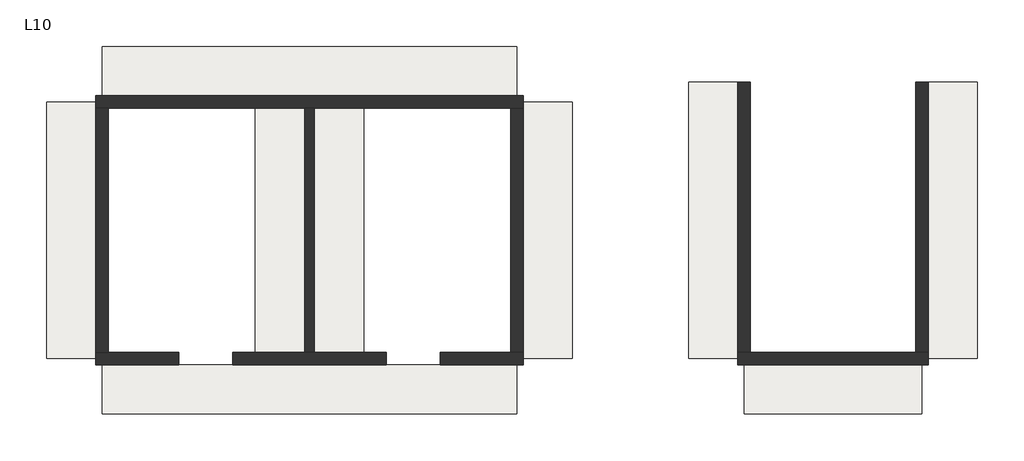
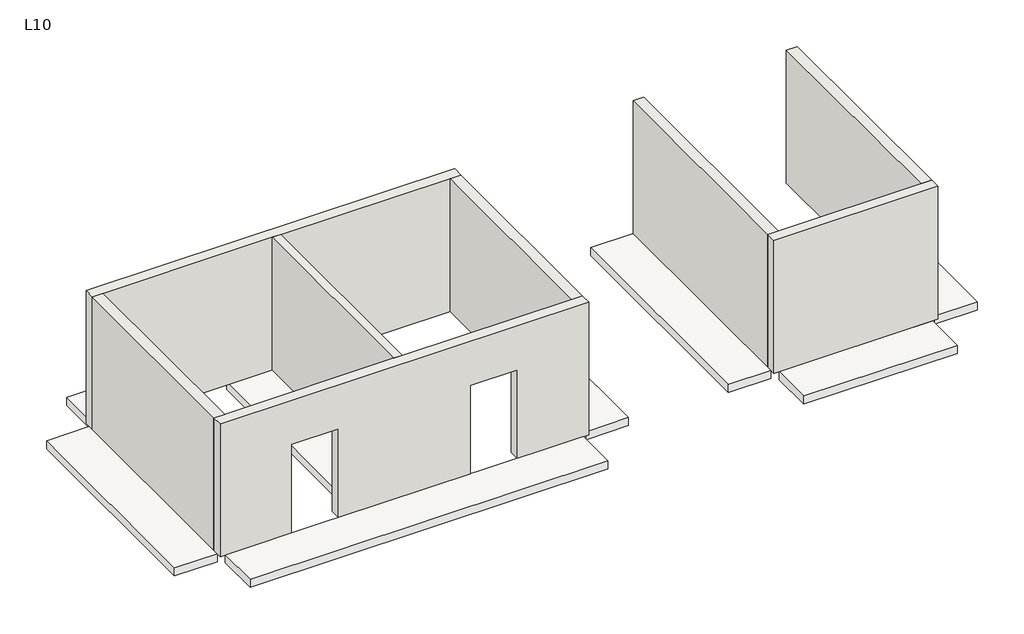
# One storey: 9 slabs, 8 walls.
"""IFC4 building model written with IfcOpenShell, lengths in millimetres."""

from ifc_helpers import new_model, si_unit, frame, origin, place, context, project, spatial, polyline, outline, extrude, faceted_brep, element, save

model = new_model("IFC4")

# Units and contexts
model_context = context("Model", 3, world=origin())
ifc_project = project(units=[si_unit("LENGTHUNIT", "METRE", prefix="MILLI")], contexts=[model_context])

# Site, building, storey
site = spatial("IfcSite", under=ifc_project)
building = spatial("IfcBuilding", under=site)
storey = spatial("IfcBuildingStorey", under=building, Name="L10", Elevation=30900.0)

# Slabs
placement = place(None, origin())
element("IfcSlab", 1, ObjectType="BS-Sàn 200", at=placement, inside=storey, context=model_context, shape_type="SweptSolid", body=[
    extrude(outline(polyline([(0.0, 6325.0), (8400.0, 6325.0), (8400.0, 5325.0), (0.0, 5325.0), (0.0, 6325.0)])), frame((0.0, 0.0, 30700.0), z_axis=(0.0, 0.0, 1.0), x_axis=(1.0, 0.0, 0.0)), (0.0, 0.0, 1.0), 200.0),
])
element("IfcSlab", 2, ObjectType="BS-Sàn 200", at=placement, inside=storey, context=model_context, shape_type="SweptSolid", body=[
    extrude(outline(polyline([(16725.0, 5600.0), (17725.0, 5600.0), (17725.0, 0.0), (16725.0, 0.0), (16725.0, 5600.0)])), frame((0.0, 0.0, 30700.0), z_axis=(0.0, 0.0, 1.0), x_axis=(1.0, 0.0, 0.0)), (0.0, 0.0, 1.0), 200.0),
])
element("IfcSlab", 3, ObjectType="BS-Sàn 200", at=placement, inside=storey, context=model_context, shape_type="SweptSolid", body=[
    extrude(outline(polyline([(11875.0, 5600.0), (12875.0, 5600.0), (12875.0, 0.0), (11875.0, 0.0), (11875.0, 5600.0)])), frame((0.0, 0.0, 30700.0), z_axis=(0.0, 0.0, 1.0), x_axis=(1.0, 0.0, 0.0)), (0.0, 0.0, 1.0), 200.0),
])
element("IfcSlab", 4, ObjectType="BS-Sàn 200", at=placement, inside=storey, context=model_context, shape_type="SweptSolid", body=[
    extrude(outline(polyline([(4300.0, 5200.0), (5300.0, 5200.0), (5300.0, 0.0), (4300.0, 0.0), (4300.0, 5200.0)])), frame((0.0, 0.0, 30700.0), z_axis=(0.0, 0.0, 1.0), x_axis=(1.0, 0.0, 0.0)), (0.0, 0.0, 1.0), 200.0),
])
element("IfcSlab", 5, ObjectType="BS-Sàn 200", at=placement, inside=storey, context=model_context, shape_type="SweptSolid", body=[
    extrude(outline(polyline([(3100.0, 5200.0), (4100.0, 5200.0), (4100.0, 0.0), (3100.0, 0.0), (3100.0, 5200.0)])), frame((0.0, 0.0, 30700.0), z_axis=(0.0, 0.0, 1.0), x_axis=(1.0, 0.0, 0.0)), (0.0, 0.0, 1.0), 200.0),
])
element("IfcSlab", 6, ObjectType="BS-Sàn 200", at=placement, inside=storey, context=model_context, shape_type="SweptSolid", body=[
    extrude(outline(polyline([(8525.0, 5200.0), (9525.0, 5200.0), (9525.0, 0.0), (8525.0, 0.0), (8525.0, 5200.0)])), frame((0.0, 0.0, 30700.0), z_axis=(0.0, 0.0, 1.0), x_axis=(1.0, 0.0, 0.0)), (0.0, 0.0, 1.0), 200.0),
])
element("IfcSlab", 7, ObjectType="BS-Sàn 200", at=placement, inside=storey, context=model_context, shape_type="SweptSolid", body=[
    extrude(outline(polyline([(-1125.0, 5200.0), (-125.0, 5200.0), (-125.0, 0.0), (-1125.0, 0.0), (-1125.0, 5200.0)])), frame((0.0, 0.0, 30700.0), z_axis=(0.0, 0.0, 1.0), x_axis=(1.0, 0.0, 0.0)), (0.0, 0.0, 1.0), 200.0),
])
element("IfcSlab", 8, ObjectType="BS-Sàn 200", at=placement, inside=storey, context=model_context, shape_type="SweptSolid", body=[
    extrude(outline(polyline([(13000.0, -125.0), (16600.0, -125.0), (16600.0, -1125.0), (13000.0, -1125.0), (13000.0, -125.0)])), frame((0.0, 0.0, 30700.0), z_axis=(0.0, 0.0, 1.0), x_axis=(1.0, 0.0, 0.0)), (0.0, 0.0, 1.0), 200.0),
])
element("IfcSlab", 9, ObjectType="BS-Sàn 200", at=placement, inside=storey, context=model_context, shape_type="SweptSolid", body=[
    extrude(outline(polyline([(0.0, -125.0), (8400.0, -125.0), (8400.0, -1125.0), (0.0, -1125.0), (0.0, -125.0)])), frame((0.0, 0.0, 30700.0), z_axis=(0.0, 0.0, 1.0), x_axis=(1.0, 0.0, 0.0)), (0.0, 0.0, 1.0), 200.0),
])

# Walls
element("IfcWall", 10, ObjectType="BS-Vách 250", at=placement, inside=storey, context=model_context, shape_type="Brep", body=[
    faceted_brep([(-125.0, 5075.0, 30900.0), (125.0, 5075.0, 30900.0), (4100.0, 5075.0, 30900.0), (4300.0, 5075.0, 30900.0), (8275.0, 5075.0, 30900.0), (8525.0, 5075.0, 30900.0), (8525.0, 5075.0, 34200.0), (8275.0, 5075.0, 34200.0), (4300.0, 5075.0, 34200.0), (4100.0, 5075.0, 34200.0), (125.0, 5075.0, 34200.0), (-125.0, 5075.0, 34200.0), (-125.0, 5325.0, 30900.0), (-125.0, 5325.0, 34200.0), (8525.0, 5325.0, 34200.0), (8525.0, 5325.0, 30900.0)], [[[0, 1, 2, 3, 4, 5, 6, 7, 8, 9, 10, 11]], [[12, 13, 14, 15]], [[5, 4, 3, 2, 1, 0, 12, 15]], [[11, 10, 9, 8, 7, 6, 14, 13]], [[6, 5, 15, 14]], [[0, 11, 13, 12]]]),
])
element("IfcWall", 11, ObjectType="BS-Vách 250", at=placement, inside=storey, context=model_context, shape_type="Brep", body=[
    faceted_brep([(8525.0, -125.0, 30900.0), (8525.0, -125.0, 34200.0), (-125.0, -125.0, 34200.0), (-125.0, -125.0, 30900.0), (1550.0, -125.0, 30900.0), (1550.0, -125.0, 33100.0), (2650.0, -125.0, 33100.0), (2650.0, -125.0, 30900.0), (5750.0, -125.0, 30900.0), (5750.0, -125.0, 33100.0), (6850.0, -125.0, 33100.0), (6850.0, -125.0, 30900.0), (8525.0, 125.0, 34200.0), (8525.0, 125.0, 30900.0), (8275.0, 125.0, 30900.0), (6850.0, 125.0, 30900.0), (6850.0, 125.0, 33100.0), (5750.0, 125.0, 33100.0), (5750.0, 125.0, 30900.0), (4300.0, 125.0, 30900.0), (4100.0, 125.0, 30900.0), (2650.0, 125.0, 30900.0), (2650.0, 125.0, 33100.0), (1550.0, 125.0, 33100.0), (1550.0, 125.0, 30900.0), (125.0, 125.0, 30900.0), (-125.0, 125.0, 30900.0), (-125.0, 125.0, 34200.0), (125.0, 125.0, 34200.0), (4100.0, 125.0, 34200.0), (4300.0, 125.0, 34200.0), (8275.0, 125.0, 34200.0)], [[[0, 1, 2, 3, 4, 5, 6, 7, 8, 9, 10, 11]], [[12, 13, 14, 15, 16, 17, 18, 19, 20, 21, 22, 23, 24, 25, 26, 27, 28, 29, 30, 31]], [[7, 21, 20, 19, 18, 8]], [[13, 0, 11, 15, 14]], [[3, 26, 25, 24, 4]], [[2, 1, 12, 31, 30, 29, 28, 27]], [[5, 23, 22, 6]], [[23, 5, 4, 24]], [[6, 22, 21, 7]], [[9, 17, 16, 10]], [[17, 9, 8, 18]], [[10, 16, 15, 11]], [[1, 0, 13, 12]], [[3, 2, 27, 26]]]),
])
element("IfcWall", 12, ObjectType="BS-Vách 250", at=placement, inside=storey, context=model_context, shape_type="SweptSolid", body=[
    extrude(outline(polyline([(125.0, 5075.0), (125.0, 125.0), (-125.0, 125.0), (-125.0, 5075.0), (125.0, 5075.0)])), frame((0.0, 0.0, 30900.0), z_axis=(0.0, 0.0, 1.0), x_axis=(1.0, 0.0, 0.0)), (0.0, 0.0, 1.0), 3300.0),
])
element("IfcWall", 13, ObjectType="BS-Vách 250", at=placement, inside=storey, context=model_context, shape_type="SweptSolid", body=[
    extrude(outline(polyline([(8525.0, 5075.0), (8525.0, 125.0), (8275.0, 125.0), (8275.0, 5075.0), (8525.0, 5075.0)])), frame((0.0, 0.0, 30900.0), z_axis=(0.0, 0.0, 1.0), x_axis=(1.0, 0.0, 0.0)), (0.0, 0.0, 1.0), 3300.0),
])
element("IfcWall", 14, ObjectType="BS-Vách 200", at=placement, inside=storey, context=model_context, shape_type="SweptSolid", body=[
    extrude(outline(polyline([(4300.0, 5075.0), (4300.0, 125.0), (4100.0, 125.0), (4100.0, 5075.0), (4300.0, 5075.0)])), frame((0.0, 0.0, 30900.0), z_axis=(0.0, 0.0, 1.0), x_axis=(1.0, 0.0, 0.0)), (0.0, 0.0, 1.0), 3300.0),
])
element("IfcWall", 15, ObjectType="BS-Vách 250", at=placement, inside=storey, context=model_context, shape_type="Brep", body=[
    faceted_brep([(12875.0, -125.0, 30900.0), (16725.0, -125.0, 30900.0), (16725.0, -125.0, 34200.0), (12875.0, -125.0, 34200.0), (12875.0, 125.0, 30900.0), (12875.0, 125.0, 34200.0), (13125.0, 125.0, 34200.0), (16475.0, 125.0, 34200.0), (16725.0, 125.0, 34200.0), (16725.0, 125.0, 30900.0), (16475.0, 125.0, 30900.0), (13125.0, 125.0, 30900.0)], [[[0, 1, 2, 3]], [[4, 5, 6, 7, 8, 9, 10, 11]], [[1, 0, 4, 11, 10, 9]], [[3, 2, 8, 7, 6, 5]], [[2, 1, 9, 8]], [[0, 3, 5, 4]]]),
])
element("IfcWall", 16, ObjectType="BS-Vách 250", at=placement, inside=storey, context=model_context, shape_type="SweptSolid", body=[
    extrude(outline(polyline([(13125.0, 5600.0), (13125.0, 125.0), (12875.0, 125.0), (12875.0, 5600.0), (13125.0, 5600.0)])), frame((0.0, 0.0, 30900.0), z_axis=(0.0, 0.0, 1.0), x_axis=(1.0, 0.0, 0.0)), (0.0, 0.0, 1.0), 3300.0),
])
element("IfcWall", 17, ObjectType="BS-Vách 250", at=placement, inside=storey, context=model_context, shape_type="SweptSolid", body=[
    extrude(outline(polyline([(16725.0, 5600.0), (16725.0, 125.0), (16475.0, 125.0), (16475.0, 5600.0), (16725.0, 5600.0)])), frame((0.0, 0.0, 30900.0), z_axis=(0.0, 0.0, 1.0), x_axis=(1.0, 0.0, 0.0)), (0.0, 0.0, 1.0), 3300.0),
])

save(model, "model.ifc")
